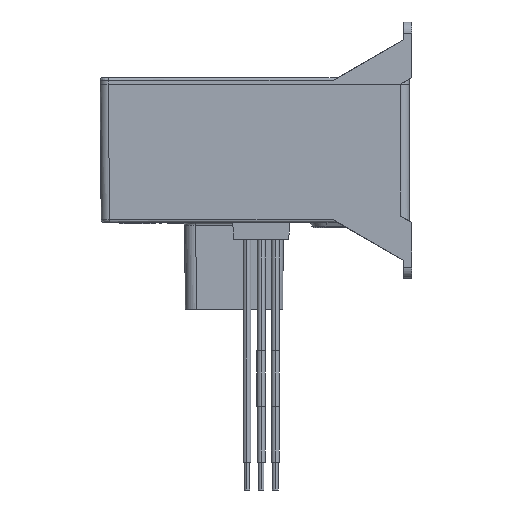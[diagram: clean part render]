
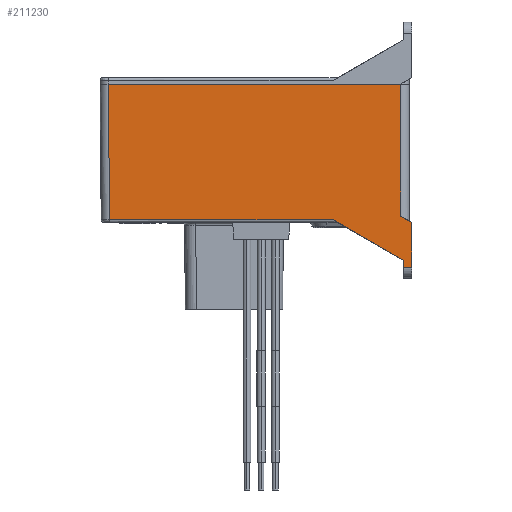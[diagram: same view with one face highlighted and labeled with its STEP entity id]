
A CAD part, left-side view. The second image highlights one B-rep face of the part: STEP entity #211230.
In plain terms, the highlighted planar face has unit normal (-1, 0, -0.009) as drawn and (1, 0, 0.009) by its records, which use the part's own axes.
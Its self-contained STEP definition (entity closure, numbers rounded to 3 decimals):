
#11350=CARTESIAN_POINT('',(27.788,-16.689,
9.854));
#11360=VERTEX_POINT('',#11350);
#11390=CARTESIAN_POINT('',(27.774,-19.5,11.478));
#11400=DIRECTION('',(-0.004,-0.866,
0.5));
#11410=VECTOR('',#11400,1.);
#11420=LINE('',#11390,#11410);
#11430=CARTESIAN_POINT('',(27.724,-29.325,17.15));
#11440=VERTEX_POINT('',#11430);
#11450=EDGE_CURVE('',#11360,#11440,#11420,.T.);
#14740=CARTESIAN_POINT('',(27.841,-19.5,3.812));
#14750=DIRECTION('',(-0.004,-0.866,
0.5));
#14760=VECTOR('',#14750,1.);
#14770=LINE('',#14740,#14760);
#14780=CARTESIAN_POINT('',(27.794,-28.825,9.195));
#14790=VERTEX_POINT('',#14780);
#14800=CARTESIAN_POINT('',(27.784,-30.825,10.35));
#14810=VERTEX_POINT('',#14800);
#14820=EDGE_CURVE('',#14790,#14810,#14770,.T.);
#26700=CARTESIAN_POINT('',(27.714,-30.825,18.367));
#26710=VERTEX_POINT('',#26700);
#26800=CARTESIAN_POINT('',(27.714,-29.325,18.367));
#26810=VERTEX_POINT('',#26800);
#26840=CARTESIAN_POINT('',(27.714,-19.5,18.367));
#26850=DIRECTION('',(0.,-1.,0.));
#26860=VECTOR('',#26850,1.);
#26870=LINE('',#26840,#26860);
#26880=EDGE_CURVE('',#26810,#26710,#26870,.T.);
#33510=CARTESIAN_POINT('',(27.788,23.463,
9.854));
#33520=VERTEX_POINT('',#33510);
#33550=CARTESIAN_POINT('',(27.788,-19.5,9.854));
#33560=DIRECTION('',(0.,-1.,0.));
#33570=VECTOR('',#33560,1.);
#33580=LINE('',#33550,#33570);
#33590=EDGE_CURVE('',#33520,#11360,#33580,.T.);
#35540=CARTESIAN_POINT('',(28.,23.675,-14.45));
#35550=VERTEX_POINT('',#35540);
#35580=CARTESIAN_POINT('',(27.874,23.549,
0.013));
#35590=DIRECTION('',(-0.009,-0.009,
1.));
#35600=VECTOR('',#35590,1.);
#35610=LINE('',#35580,#35600);
#35620=EDGE_CURVE('',#35550,#33520,#35610,.T.);
#60450=CARTESIAN_POINT('',(27.874,-30.825,0.));
#60460=DIRECTION('',(-0.009,0.,1.));
#60470=VECTOR('',#60460,1.);
#60480=LINE('',#60450,#60470);
#60490=EDGE_CURVE('',#14810,#26710,#60480,.T.);
#126330=CARTESIAN_POINT('',(27.874,-29.325,0.));
#126340=DIRECTION('',(0.009,0.,-1.));
#126350=VECTOR('',#126340,1.);
#126360=LINE('',#126330,#126350);
#126370=EDGE_CURVE('',#26810,#11440,#126360,.T.);
#149950=CARTESIAN_POINT('',(28.,-28.825,-14.45));
#149960=VERTEX_POINT('',#149950);
#150060=CARTESIAN_POINT('',(27.874,-28.825,0.013)
);
#150070=DIRECTION('',(0.009,0.,-1.));
#150080=VECTOR('',#150070,1.);
#150090=LINE('',#150060,#150080);
#150100=EDGE_CURVE('',#14790,#149960,#150090,.T.);
#211020=CARTESIAN_POINT('',(27.976,12.082,
-11.672));
#211030=DIRECTION('',(1.,0.,0.009));
#211040=DIRECTION('',(0.,-1.,0.));
#211050=AXIS2_PLACEMENT_3D('',#211020,#211030,#211040);
#211060=PLANE('',#211050);
#211070=ORIENTED_EDGE('',*,*,#35620,.T.);
#211080=CARTESIAN_POINT('',(28.,-19.5,-14.45));
#211090=DIRECTION('',(0.,1.,0.));
#211100=VECTOR('',#211090,1.);
#211110=LINE('',#211080,#211100);
#211120=EDGE_CURVE('',#149960,#35550,#211110,.T.);
#211130=ORIENTED_EDGE('',*,*,#211120,.T.);
#211140=ORIENTED_EDGE('',*,*,#150100,.T.);
#211150=ORIENTED_EDGE('',*,*,#14820,.F.);
#211160=ORIENTED_EDGE('',*,*,#60490,.F.);
#211170=ORIENTED_EDGE('',*,*,#26880,.T.);
#211180=ORIENTED_EDGE('',*,*,#126370,.F.);
#211190=ORIENTED_EDGE('',*,*,#11450,.T.);
#211200=ORIENTED_EDGE('',*,*,#33590,.T.);
#211210=EDGE_LOOP('',(#211200,#211190,#211180,#211170,#211160,#211150,
#211140,#211130,#211070));
#211220=FACE_OUTER_BOUND('',#211210,.T.);
#211230=ADVANCED_FACE('',(#211220),#211060,.T.);
